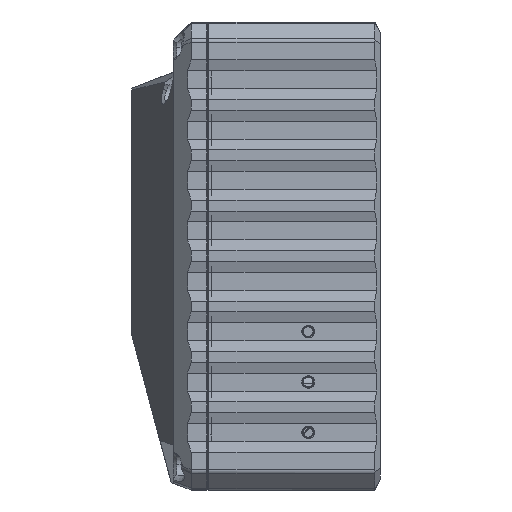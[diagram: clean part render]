
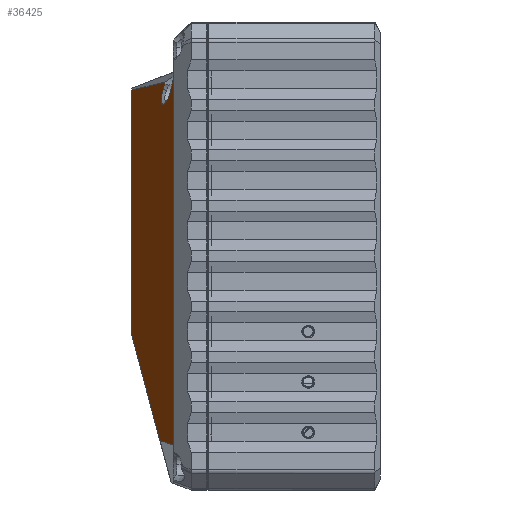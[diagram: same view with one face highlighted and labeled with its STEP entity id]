
A CAD part, left-side view. The second image highlights one B-rep face of the part: STEP entity #36425.
In plain terms, the highlighted planar face has unit normal (-0.248, 0.936, 0.248).
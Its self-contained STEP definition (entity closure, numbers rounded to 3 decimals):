
#29424=DIRECTION('',(0.707,0.,0.707));
#29425=VECTOR('',#29424,96.368);
#29426=CARTESIAN_POINT('',(-121.712,66.5,-22.081));
#29427=LINE('',#29426,#29425);
#29428=DIRECTION('',(0.96,0.272,-0.068));
#29429=VECTOR('',#29428,34.116);
#29430=CARTESIAN_POINT('',(-86.314,57.205,
48.37));
#29431=LINE('',#29430,#29429);
#29432=CARTESIAN_POINT('',(-86.486,57.29,
47.878));
#29433=CARTESIAN_POINT('',(-86.465,57.281,
47.933));
#29434=CARTESIAN_POINT('',(-86.424,57.263,
48.043));
#29435=CARTESIAN_POINT('',(-86.367,57.234,
48.207));
#29436=CARTESIAN_POINT('',(-86.331,57.215,
48.315));
#29437=CARTESIAN_POINT('',(-86.314,57.205,
48.37));
#29439=CARTESIAN_POINT('',(-86.148,57.812,
46.248));
#29440=CARTESIAN_POINT('',(-86.149,57.735,
46.535));
#29441=CARTESIAN_POINT('',(-86.209,57.571,
47.094));
#29442=CARTESIAN_POINT('',(-86.375,57.387,
47.622));
#29443=CARTESIAN_POINT('',(-86.486,57.29,
47.878));
#29445=CARTESIAN_POINT('',(-94.348,55.637,
46.248));
#29446=CARTESIAN_POINT('',(-94.348,55.663,
46.151));
#29447=CARTESIAN_POINT('',(-94.328,55.812,
45.609));
#29448=CARTESIAN_POINT('',(-94.101,56.128,
44.646));
#29449=CARTESIAN_POINT('',(-93.384,56.624,
43.491));
#29450=CARTESIAN_POINT('',(-92.308,57.142,
42.614));
#29451=CARTESIAN_POINT('',(-91.006,57.612,
42.143));
#29452=CARTESIAN_POINT('',(-89.66,57.975,
42.12));
#29453=CARTESIAN_POINT('',(-88.419,58.202,
42.506));
#29454=CARTESIAN_POINT('',(-87.389,58.285,
43.223));
#29455=CARTESIAN_POINT('',(-86.616,58.228,
44.211));
#29456=CARTESIAN_POINT('',(-86.22,58.053,
45.268));
#29457=CARTESIAN_POINT('',(-86.148,57.884,
45.976));
#29458=CARTESIAN_POINT('',(-86.148,57.812,
46.248));
#29460=CARTESIAN_POINT('',(-93.593,55.209,
48.621));
#29461=CARTESIAN_POINT('',(-93.839,55.235,
48.274));
#29462=CARTESIAN_POINT('',(-94.207,55.335,
47.529));
#29463=CARTESIAN_POINT('',(-94.347,55.52,
46.691));
#29464=CARTESIAN_POINT('',(-94.348,55.637,
46.248));
#29466=CARTESIAN_POINT('',(-93.642,55.125,
48.886));
#29467=CARTESIAN_POINT('',(-93.637,55.134,
48.857));
#29468=CARTESIAN_POINT('',(-93.627,55.152,
48.798));
#29469=CARTESIAN_POINT('',(-93.61,55.18,
48.709));
#29470=CARTESIAN_POINT('',(-93.599,55.199,
48.65));
#29471=CARTESIAN_POINT('',(-93.593,55.209,
48.621));
#29473=DIRECTION('',(0.96,0.272,-0.068));
#29474=VECTOR('',#29473,0.459);
#29475=CARTESIAN_POINT('',(-94.082,55.,48.918));
#29476=LINE('',#29475,#29474);
#29477=DIRECTION('',(-0.968,-0.234,-0.085));
#29478=VECTOR('',#29477,15.747);
#29479=CARTESIAN_POINT('',(-180.328,58.688,
-51.236));
#29480=LINE('',#29479,#29478);
#29481=DIRECTION('',(-0.889,-0.118,-0.442));
#29482=VECTOR('',#29481,65.931);
#29483=CARTESIAN_POINT('',(-121.712,66.5,-22.081));
#29484=LINE('',#29483,#29482);
#29990=DIRECTION('',(0.707,0.,0.707));
#29991=VECTOR('',#29990,143.537);
#29992=CARTESIAN_POINT('',(-195.579,55.,-52.579));
#29993=LINE('',#29992,#29991);
#35470=CARTESIAN_POINT('',(-94.082,55.,48.918));
#35472=VERTEX_POINT('',#35470);
#36284=VERTEX_POINT('',#29439);
#36285=VERTEX_POINT('',#29443);
#36286=VERTEX_POINT('',#29445);
#36288=VERTEX_POINT('',#29460);
#36290=VERTEX_POINT('',#29437);
#36299=VERTEX_POINT('',#29466);
#36344=CARTESIAN_POINT('',(-180.328,58.688,
-51.236));
#36345=VERTEX_POINT('',#36344);
#36346=CARTESIAN_POINT('',(-195.579,55.,-52.579));
#36347=VERTEX_POINT('',#36346);
#36368=CARTESIAN_POINT('',(-121.712,66.5,-22.081));
#36369=CARTESIAN_POINT('',(-53.57,66.5,46.061));
#36370=VERTEX_POINT('',#36368);
#36371=VERTEX_POINT('',#36369);
#36396=CARTESIAN_POINT('',(-120.716,62.5,-6.));
#36397=DIRECTION('',(-0.248,0.936,0.248));
#36398=DIRECTION('',(-0.662,-0.351,0.662));
#36399=AXIS2_PLACEMENT_3D('',#36396,#36397,#36398);
#36400=PLANE('',#36399);
#36402=ORIENTED_EDGE('',*,*,#36401,.T.);
#36404=ORIENTED_EDGE('',*,*,#36403,.F.);
#36406=ORIENTED_EDGE('',*,*,#36405,.F.);
#36408=ORIENTED_EDGE('',*,*,#36407,.F.);
#36410=ORIENTED_EDGE('',*,*,#36409,.F.);
#36412=ORIENTED_EDGE('',*,*,#36411,.F.);
#36414=ORIENTED_EDGE('',*,*,#36413,.F.);
#36416=ORIENTED_EDGE('',*,*,#36415,.F.);
#36418=ORIENTED_EDGE('',*,*,#36417,.F.);
#36420=ORIENTED_EDGE('',*,*,#36419,.F.);
#36422=ORIENTED_EDGE('',*,*,#36421,.F.);
#36423=EDGE_LOOP('',(#36402,#36404,#36406,#36408,#36410,#36412,#36414,#36416,
#36418,#36420,#36422));
#36424=FACE_OUTER_BOUND('',#36423,.F.);
#29438=B_SPLINE_CURVE_WITH_KNOTS('',3,(#29432,#29433,#29434,#29435,#29436,
#29437),.UNSPECIFIED.,.F.,.F.,(4,1,1,4),(0.,0.333,
0.667,1.),.UNSPECIFIED.);
#29444=B_SPLINE_CURVE_WITH_KNOTS('',3,(#29439,#29440,#29441,#29442,#29443),
.UNSPECIFIED.,.F.,.F.,(4,1,4),(0.,0.5,1.),.UNSPECIFIED.);
#29459=B_SPLINE_CURVE_WITH_KNOTS('',3,(#29445,#29446,#29447,#29448,#29449,
#29450,#29451,#29452,#29453,#29454,#29455,#29456,#29457,#29458),.UNSPECIFIED.,
.F.,.F.,(4,1,1,1,1,1,1,1,1,1,1,4),(0.,0.022,0.124,
0.226,0.327,0.429,0.531,
0.632,0.734,0.836,0.937,1.),
.UNSPECIFIED.);
#29465=B_SPLINE_CURVE_WITH_KNOTS('',3,(#29460,#29461,#29462,#29463,#29464),
.UNSPECIFIED.,.F.,.F.,(4,1,4),(0.,0.5,1.),.UNSPECIFIED.);
#29472=B_SPLINE_CURVE_WITH_KNOTS('',3,(#29466,#29467,#29468,#29469,#29470,
#29471),.UNSPECIFIED.,.F.,.F.,(4,1,1,4),(0.,0.333,
0.667,1.),.UNSPECIFIED.);
#36401=EDGE_CURVE('',#36370,#36371,#29427,.T.);
#36403=EDGE_CURVE('',#36290,#36371,#29431,.T.);
#36405=EDGE_CURVE('',#36285,#36290,#29438,.T.);
#36407=EDGE_CURVE('',#36284,#36285,#29444,.T.);
#36409=EDGE_CURVE('',#36286,#36284,#29459,.T.);
#36411=EDGE_CURVE('',#36288,#36286,#29465,.T.);
#36413=EDGE_CURVE('',#36299,#36288,#29472,.T.);
#36415=EDGE_CURVE('',#35472,#36299,#29476,.T.);
#36417=EDGE_CURVE('',#36347,#35472,#29993,.T.);
#36419=EDGE_CURVE('',#36345,#36347,#29480,.T.);
#36421=EDGE_CURVE('',#36370,#36345,#29484,.T.);
#36425=ADVANCED_FACE('',(#36424),#36400,.T.);
